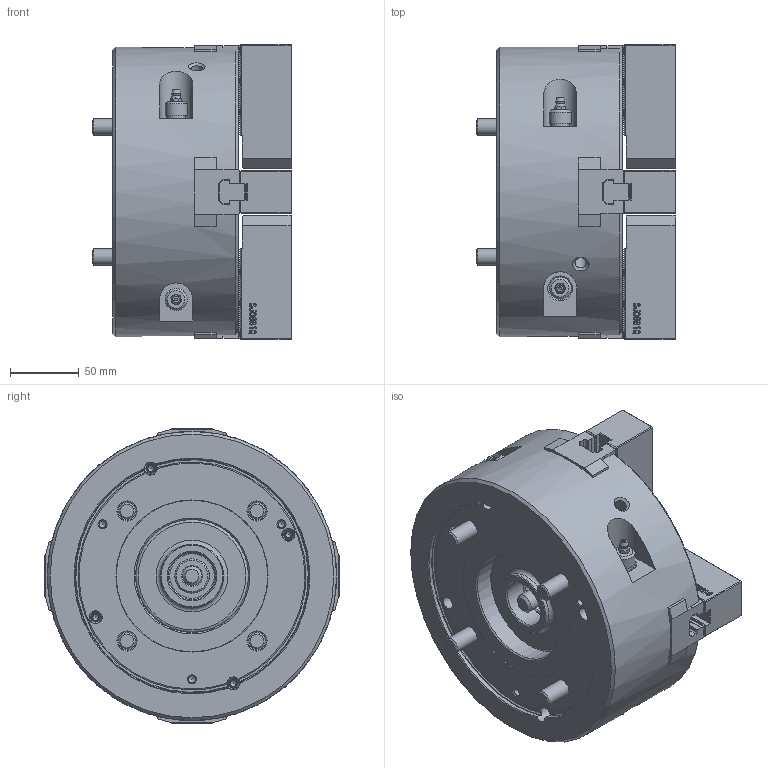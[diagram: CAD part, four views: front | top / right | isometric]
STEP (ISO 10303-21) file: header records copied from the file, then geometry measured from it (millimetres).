
FILE_DESCRIPTION (( 'STEP AP214' ), '1' );
FILE_NAME ('DT1_HW-08_OUTSIDE_VIEW_HUL.STEP', '2024-05-09T23:28:33', ( '' ), ( '' ), 'SwSTEP 2.0', 'SolidWorks 2022', '' );
FILE_SCHEMA (( 'AUTOMOTIVE_DESIGN' ));
Length unit declared in the file: millimetre
Products named in the file (11): DT1_HW-08_OUTSIDE_VIEW_HUL; DT1_HW-08_COVER^DT1_HW-08_ﾃﾞﾌｫﾙﾄ; DT1_HW-08_M10x25^DT1_HW-08_ﾃﾞﾌｫﾙﾄ; DT1_HW-08_M12x90^DT1_HW-08_ﾃﾞﾌｫﾙﾄ; DT1_HW-08_BASE^DT1_HW-08_ﾃﾞﾌｫﾙﾄ; DT1_HW-08_DN^DT1_HW-08_ﾃﾞﾌｫﾙﾄ; Copy of 0080010810^DT1_HW-08_ﾃﾞﾌｫﾙﾄ; DT1_HW-08_TNUT^DT1_HW-08_ﾃﾞﾌｫﾙﾄ; DT1_HW-08_SOFTJAW^DT1_HW-08_ﾃﾞﾌｫﾙﾄ; DT1_HW08_DRAWSCREW^DT1_HW-08_ﾃﾞﾌｫﾙﾄ; DT1_HW-08_M5x10^DT1_HW-08_ﾃﾞﾌｫﾙﾄ
Assembly tree (29 placements, depth 2):
  DT1_HW-08_OUTSIDE_VIEW_HUL
    DT1_HW-08_SOFTJAW^DT1_HW-08_ﾃﾞﾌｫﾙﾄ  x4
    DT1_HW-08_TNUT^DT1_HW-08_ﾃﾞﾌｫﾙﾄ  x4
    DT1_HW-08_COVER^DT1_HW-08_ﾃﾞﾌｫﾙﾄ
    DT1_HW08_DRAWSCREW^DT1_HW-08_ﾃﾞﾌｫﾙﾄ
    DT1_HW-08_BASE^DT1_HW-08_ﾃﾞﾌｫﾙﾄ
    DT1_HW-08_DN^DT1_HW-08_ﾃﾞﾌｫﾙﾄ
    DT1_HW-08_M12x90^DT1_HW-08_ﾃﾞﾌｫﾙﾄ  x4
    DT1_HW-08_M10x25^DT1_HW-08_ﾃﾞﾌｫﾙﾄ  x8
    DT1_HW-08_M5x10^DT1_HW-08_ﾃﾞﾌｫﾙﾄ  x4
    Copy of 0080010810^DT1_HW-08_ﾃﾞﾌｫﾙﾄ
Bounding box: 145 x 213.64 x 213.64 mm (x, y, z)
Volume: 3233062.1 mm3; surface area: 342606.3 mm2
Topology: 29 solids, 37 shells, 4986 faces, 14028 edges, 9273 vertices
Faces by surface type: plane 3230, cylinder 891, bspline 560, cone 264, torus 37, sphere 4
Full cylindrical faces by diameter (mm): 2 x4, 4.2 x4, 5 x7, 5.5 x4, 6 x1, 6.8 x4, 8 x1, 8.5 x2, 8.6 x8, 9.5 x8, 10 x12, 11 x8, 12 x5, 12.2 x1, 13.5 x8, 14 x2, 16 x4, 16.1 x4, 16.27 x8, 17 x8, 18.27 x4, 20 x4, 21 x2, 25 x1, 32.376 x1, 34 x1, 35 x2, 46 x1, 82 x1, 110 x1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
Entity records: 105581 total; most frequent: CARTESIAN_POINT 31604, ORIENTED_EDGE 16600, DIRECTION 12933, EDGE_CURVE 8300, LINE 6037, VECTOR 6037, VERTEX_POINT 5579, AXIS2_PLACEMENT_3D 3448
